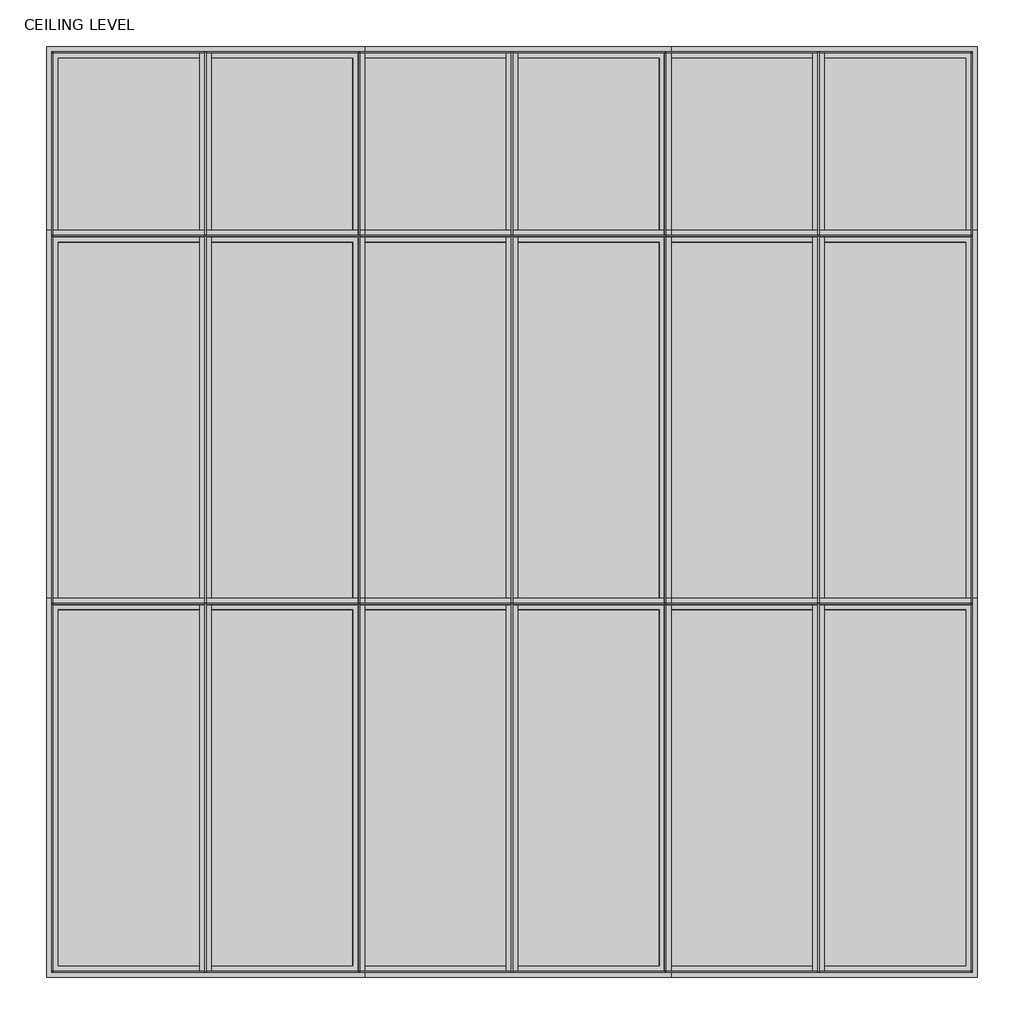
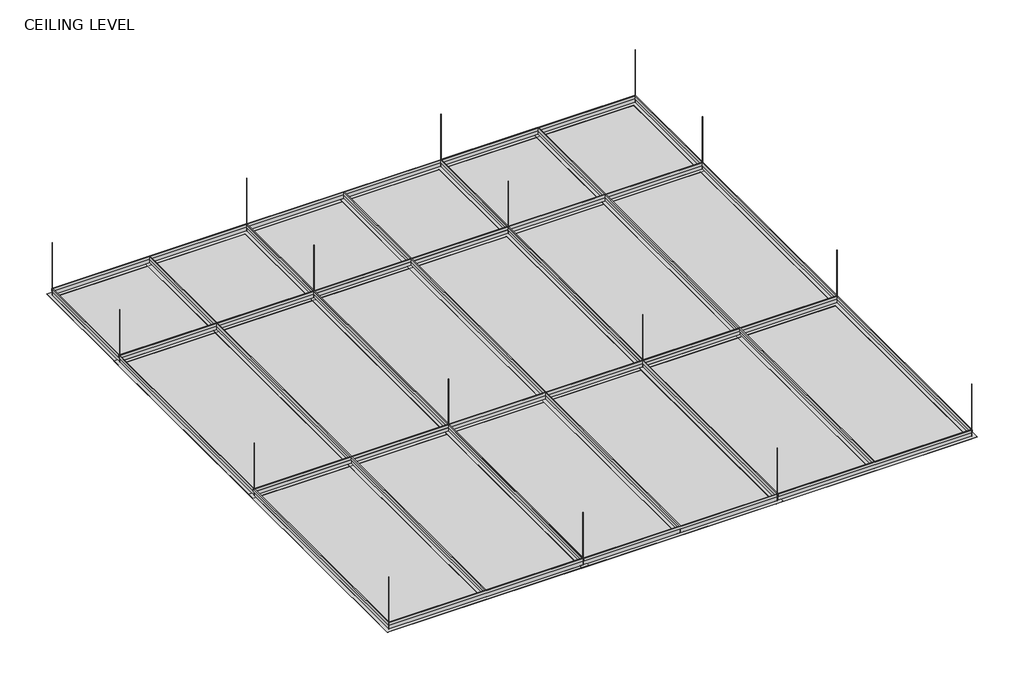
# One storey: 9 plates.
"""IFC4 building model written with IfcOpenShell, lengths in millimetres."""

from ifc_helpers import new_model, si_unit, origin, place, context, project, spatial, transform, mapped, element, save
from components import flush_ceiling_panel_with_tee_and_cable_ties_9fe2c077, flush_ceiling_panel_with_tee_and_cable_ties_458a10b8

model = new_model("IFC4")

# Units and contexts
model_context = context("Model", 3, world=origin())
ifc_project = project(units=[si_unit("LENGTHUNIT", "METRE", prefix="MILLI")], contexts=[model_context])

# Site, building, storey
site = spatial("IfcSite", under=ifc_project)
building = spatial("IfcBuilding", under=site)
storey = spatial("IfcBuildingStorey", under=building, Name="CEILING LEVEL", Elevation=3000.0)

# Plates
placement = place(None, origin())
flush_ceiling_panel_with_tee_and_cable_ties_shape = flush_ceiling_panel_with_tee_and_cable_ties_9fe2c077(model_context)
element("IfcPlate", 1, ObjectType="Flush Ceiling Panel with Tee and Cable Ties : Ceiling Panel (Vinyl) with Tee and Cable Ties Edge", at=placement, inside=storey, context=model_context, shape_type="MappedRepresentation", body=[
    mapped(flush_ceiling_panel_with_tee_and_cable_ties_shape, transform((13039.2778373, -41850.6917524, 3000.0), x_axis=(1.0, 0.0, 0.0), y_axis=(0.0, 0.0, -1.0), z_axis=(0.0, 1.0, 0.0))),
])
element("IfcPlate", 2, ObjectType="Flush Ceiling Panel with Tee and Cable Ties : Ceiling Panel (Vinyl) with Tee and Cable Ties Edge", at=placement, inside=storey, context=model_context, shape_type="MappedRepresentation", body=[
    mapped(flush_ceiling_panel_with_tee_and_cable_ties_shape, transform((14039.2778375, -41850.6917524, 3000.0), x_axis=(1.0, 0.0, 0.0), y_axis=(0.0, 0.0, -1.0), z_axis=(0.0, 1.0, 0.0))),
])
element("IfcPlate", 3, ObjectType="Flush Ceiling Panel with Tee and Cable Ties : Ceiling Panel (Vinyl) with Tee and Cable Ties Edge", at=placement, inside=storey, context=model_context, shape_type="MappedRepresentation", body=[
    mapped(flush_ceiling_panel_with_tee_and_cable_ties_shape, transform((15039.2778373, -41850.6917524, 3000.0), x_axis=(1.0, 0.0, 0.0), y_axis=(0.0, 0.0, -1.0), z_axis=(0.0, 1.0, 0.0))),
])
element("IfcPlate", 4, ObjectType="Flush Ceiling Panel with Tee and Cable Ties : Ceiling Panel (Vinyl) with Tee and Cable Ties Edge", at=placement, inside=storey, context=model_context, shape_type="MappedRepresentation", body=[
    mapped(flush_ceiling_panel_with_tee_and_cable_ties_shape, transform((13039.2778373, -40650.6917524, 3000.0), x_axis=(1.0, 0.0, 0.0), y_axis=(0.0, 0.0, -1.0), z_axis=(0.0, 1.0, 0.0))),
])
element("IfcPlate", 5, ObjectType="Flush Ceiling Panel with Tee and Cable Ties : Ceiling Panel (Vinyl) with Tee and Cable Ties Edge", at=placement, inside=storey, context=model_context, shape_type="MappedRepresentation", body=[
    mapped(flush_ceiling_panel_with_tee_and_cable_ties_shape, transform((14039.2778375, -40650.6917524, 3000.0), x_axis=(1.0, 0.0, 0.0), y_axis=(0.0, 0.0, -1.0), z_axis=(0.0, 1.0, 0.0))),
])
element("IfcPlate", 6, ObjectType="Flush Ceiling Panel with Tee and Cable Ties : Ceiling Panel (Vinyl) with Tee and Cable Ties Edge", at=placement, inside=storey, context=model_context, shape_type="MappedRepresentation", body=[
    mapped(flush_ceiling_panel_with_tee_and_cable_ties_shape, transform((15039.2778373, -40650.6917524, 3000.0), x_axis=(1.0, 0.0, 0.0), y_axis=(0.0, 0.0, -1.0), z_axis=(0.0, 1.0, 0.0))),
])
flush_ceiling_panel_with_tee_and_cable_ties_2_shape = flush_ceiling_panel_with_tee_and_cable_ties_458a10b8(model_context)
element("IfcPlate", 7, ObjectType="Flush Ceiling Panel with Tee and Cable Ties : Ceiling Panel (Vinyl) with Tee and Cable Ties Edge", at=placement, inside=storey, context=model_context, shape_type="MappedRepresentation", body=[
    mapped(flush_ceiling_panel_with_tee_and_cable_ties_2_shape, transform((13039.2778373, -39450.6917524, 3000.0), x_axis=(1.0, 0.0, 0.0), y_axis=(0.0, 0.0, -1.0), z_axis=(0.0, 1.0, 0.0))),
])
element("IfcPlate", 8, ObjectType="Flush Ceiling Panel with Tee and Cable Ties : Ceiling Panel (Vinyl) with Tee and Cable Ties Edge", at=placement, inside=storey, context=model_context, shape_type="MappedRepresentation", body=[
    mapped(flush_ceiling_panel_with_tee_and_cable_ties_2_shape, transform((14039.2778375, -39450.6917524, 3000.0), x_axis=(1.0, 0.0, 0.0), y_axis=(0.0, 0.0, -1.0), z_axis=(0.0, 1.0, 0.0))),
])
element("IfcPlate", 9, ObjectType="Flush Ceiling Panel with Tee and Cable Ties : Ceiling Panel (Vinyl) with Tee and Cable Ties Edge", at=placement, inside=storey, context=model_context, shape_type="MappedRepresentation", body=[
    mapped(flush_ceiling_panel_with_tee_and_cable_ties_2_shape, transform((15039.2778373, -39450.6917524, 3000.0), x_axis=(1.0, 0.0, 0.0), y_axis=(0.0, 0.0, -1.0), z_axis=(0.0, 1.0, 0.0))),
])

save(model, "model.ifc")
